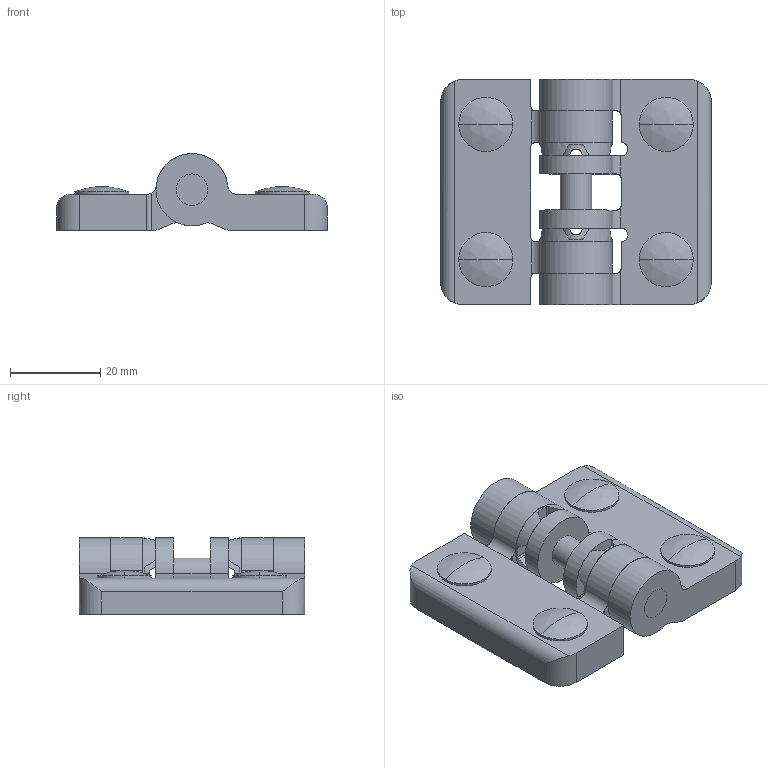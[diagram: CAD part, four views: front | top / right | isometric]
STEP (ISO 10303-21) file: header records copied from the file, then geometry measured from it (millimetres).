
FILE_DESCRIPTION(('STEP AP203'),'1');
FILE_NAME(' ',' ',('TraceParts'),('TraceParts S.A.'),'XStep 1.0',' ',' ');
FILE_SCHEMA(('CONFIG_CONTROL_DESIGN'));
Length unit declared in the file: millimetre
Products named in the file (9): 1; 2; 3; 4; 5; 6; 7; 8; 9
Bounding box: 60 x 50 x 17 mm (x, y, z)
Volume: 23883.7 mm3; surface area: 15255.6 mm2
Topology: 9 solids, 9 shells, 300 faces, 796 edges, 520 vertices
Faces by surface type: cylinder 168, plane 108, cone 16, sphere 8
Entity records: 10620 total; most frequent: CARTESIAN_POINT 2537, DIRECTION 1682, ORIENTED_EDGE 1592, EDGE_CURVE 796, AXIS2_PLACEMENT_3D 669, VERTEX_POINT 520, LINE 344, VECTOR 344
